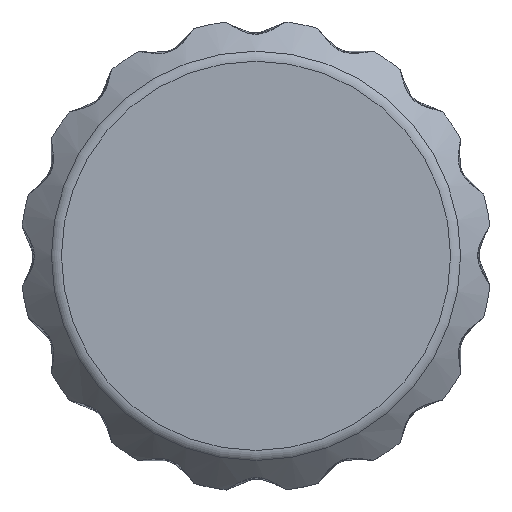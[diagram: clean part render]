
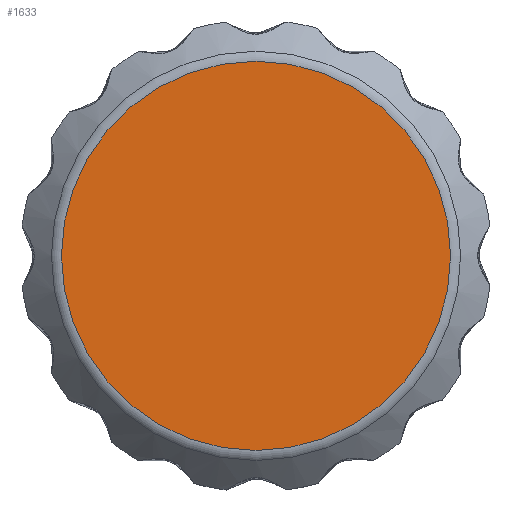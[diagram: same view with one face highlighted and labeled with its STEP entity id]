
A CAD part, top view. The second image highlights one B-rep face of the part: STEP entity #1633.
In plain terms, the highlighted planar face has unit normal (0, 0, 1).
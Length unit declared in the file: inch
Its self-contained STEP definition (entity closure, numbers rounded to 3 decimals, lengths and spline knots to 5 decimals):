
#68=PLANE('',#1745);
#91=CIRCLE('',#1746,0.27505);
#182=FACE_OUTER_BOUND('',#276,.T.);
#276=EDGE_LOOP('',(#1117));
#630=VERTEX_POINT('',#3506);
#828=EDGE_CURVE('',#630,#630,#91,.T.);
#1117=ORIENTED_EDGE('',*,*,#828,.F.);
#1633=ADVANCED_FACE('',(#182),#68,.T.);
#1745=AXIS2_PLACEMENT_3D('',#3505,#1943,#1944);
#1746=AXIS2_PLACEMENT_3D('',#3507,#1945,#1946);
#1943=DIRECTION('center_axis',(0.,0.,1.));
#1944=DIRECTION('ref_axis',(1.,0.,0.));
#1945=DIRECTION('center_axis',(0.,0.,-1.));
#1946=DIRECTION('ref_axis',(-1.,0.,0.));
#3505=CARTESIAN_POINT('Origin',(0.005,-0.002,1.125));
#3506=CARTESIAN_POINT('',(0.28005,-0.002,1.125));
#3507=CARTESIAN_POINT('Origin',(0.005,-0.002,1.125));
